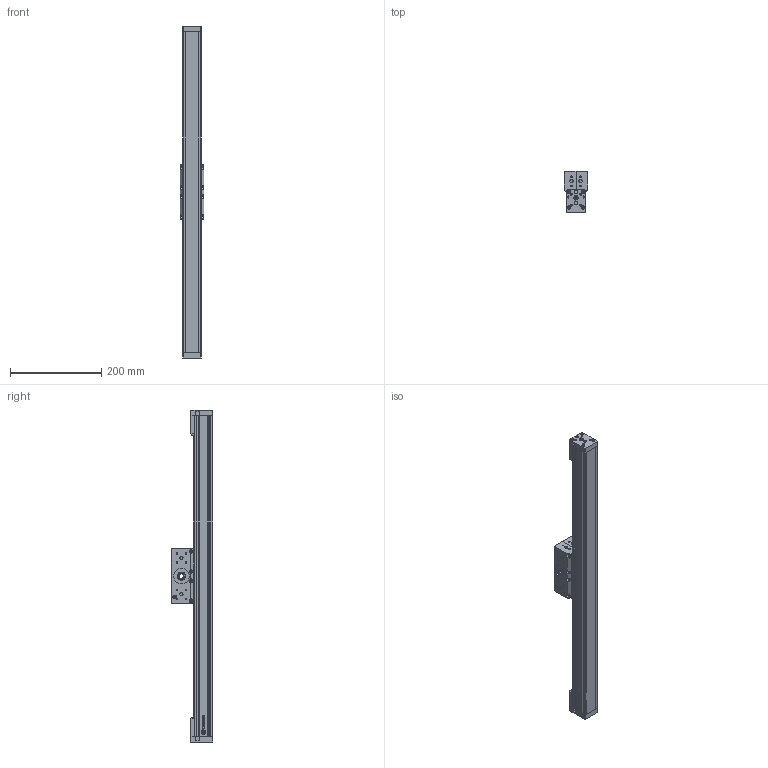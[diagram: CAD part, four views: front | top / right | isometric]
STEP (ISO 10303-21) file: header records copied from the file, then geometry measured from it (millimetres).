
FILE_DESCRIPTION (( 'STEP AP214' ), '1' );
FILE_NAME ('WMOS-040-0500 (3D).STEP', '2023-03-27T05:07:01', ( '' ), ( '' ), 'SwSTEP 2.0', 'SolidWorks 2015', '' );
FILE_SCHEMA (( 'AUTOMOTIVE_DESIGN' ));
Length unit declared in the file: inch
Products named in the file (3): Group2^Assem1; WMOS-040-0500 (3D); Group1^Assem1
Assembly tree (2 placements, depth 2):
  WMOS-040-0500 (3D)
    Group1^Assem1
    Group2^Assem1
Bounding box: 52 x 90.5 x 729.6 mm (x, y, z)
Volume: 1440789.5 mm3; surface area: 243946.4 mm2
Topology: 29 solids, 33 shells, 1183 faces, 2783 edges, 1671 vertices
Faces by surface type: plane 597, cylinder 323, cone 175, torus 76, bspline 12
Entity records: 35036 total; most frequent: CARTESIAN_POINT 6086, DIRECTION 5924, ORIENTED_EDGE 5318, EDGE_CURVE 2659, AXIS2_PLACEMENT_3D 2141, VERTEX_POINT 1671, VECTOR 1642, LINE 1642
